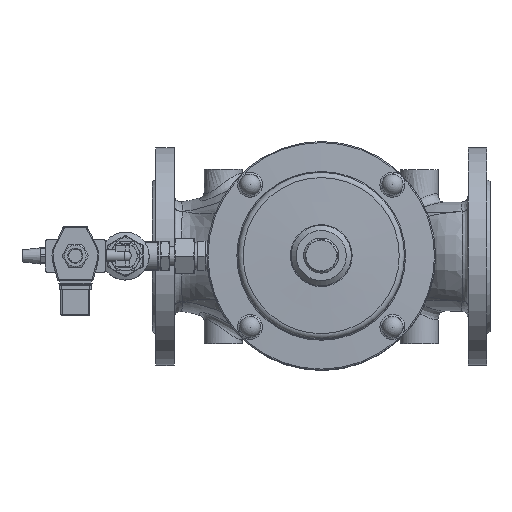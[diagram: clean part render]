
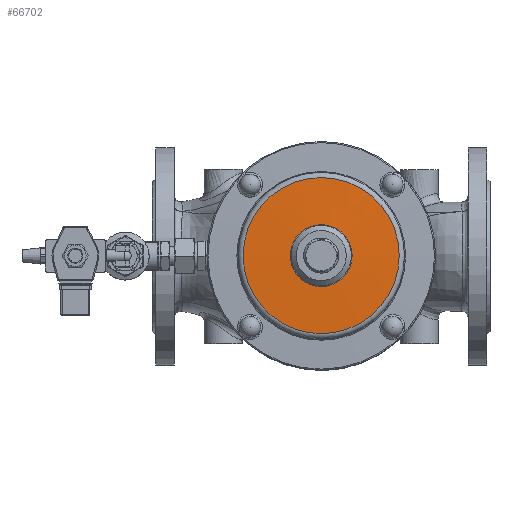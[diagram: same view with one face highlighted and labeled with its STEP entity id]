
A CAD part, top view. The second image highlights one B-rep face of the part: STEP entity #66702.
In plain terms, the highlighted conical face has half-angle 88 degrees and reference radius 52.247 mm.
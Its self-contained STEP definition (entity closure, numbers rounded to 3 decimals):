
#66671=CARTESIAN_POINT('',(-28.387,0.,544.486));
#66672=VERTEX_POINT('',#66671);
#66673=CARTESIAN_POINT('',(0.,0.,544.486));
#66674=DIRECTION('',(0.,0.,1.0));
#66675=DIRECTION('',(1.0,0.,0.));
#66676=AXIS2_PLACEMENT_3D('',#66673,#66674,#66675);
#66677=CIRCLE('',#66676,28.387);
#66678=EDGE_CURVE('',#66672,#66672,#66677,.T.);
#66683=CARTESIAN_POINT('',(0.,0.,543.653));
#66684=DIRECTION('',(0.,0.,-1.0));
#66685=DIRECTION('',(-1.0,0.,0.));
#66686=AXIS2_PLACEMENT_3D('',#66683,#66684,#66685);
#66687=CONICAL_SURFACE('',#66686,52.247,88.);
#66688=CARTESIAN_POINT('',(-71.674,0.,542.975));
#66689=VERTEX_POINT('',#66688);
#66690=CARTESIAN_POINT('',(0.,0.,542.975));
#66691=DIRECTION('',(0.,0.,-1.0));
#66692=DIRECTION('',(1.0,0.,0.));
#66693=AXIS2_PLACEMENT_3D('',#66690,#66691,#66692);
#66694=CIRCLE('',#66693,71.674);
#66695=EDGE_CURVE('',#66689,#66689,#66694,.T.);
#66696=ORIENTED_EDGE('',*,*,#66695,.F.);
#66697=EDGE_LOOP('',(#66696));
#66698=FACE_OUTER_BOUND('',#66697,.T.);
#66699=ORIENTED_EDGE('',*,*,#66678,.F.);
#66700=EDGE_LOOP('',(#66699));
#66701=FACE_BOUND('',#66700,.T.);
#66702=ADVANCED_FACE('',(#66698,#66701),#66687,.T.);
